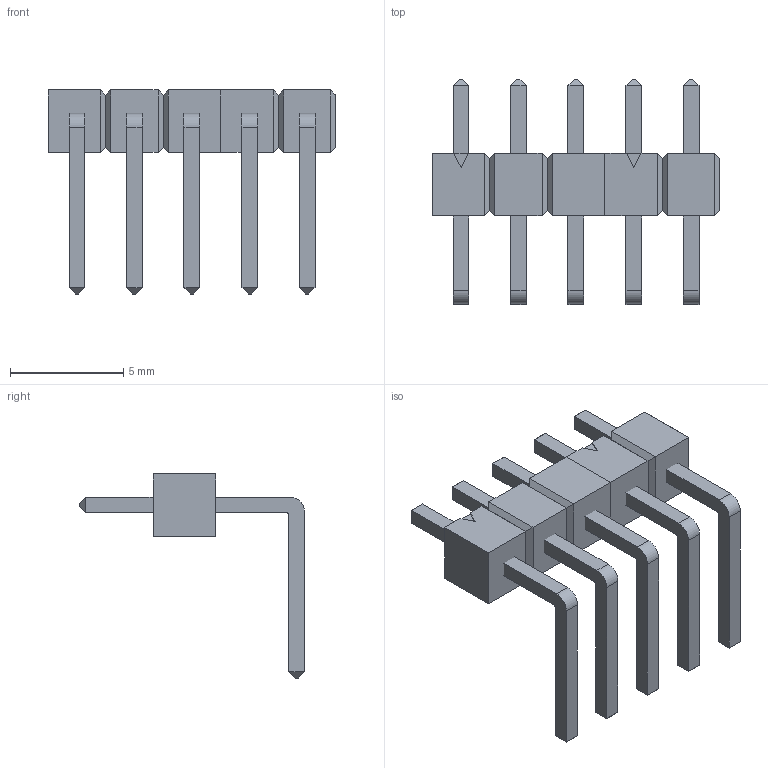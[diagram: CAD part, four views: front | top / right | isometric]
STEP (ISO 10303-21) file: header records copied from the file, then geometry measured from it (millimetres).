
FILE_DESCRIPTION (( 'STEP AP203' ), '1' );
FILE_NAME ('PLL.STEP', '2025-11-22T20:01:41', ( '' ), ( '' ), 'SwSTEP 2.0', 'SolidWorks 2022', '' );
FILE_SCHEMA (( 'CONFIG_CONTROL_DESIGN' ));
Length unit declared in the file: millimetre
Products named in the file (1): PLL
Bounding box: 12.7 x 9.91 x 9 mm (x, y, z)
Volume: 134.1 mm3; surface area: 407.5 mm2
Topology: 7 solids, 7 shells, 152 faces, 330 edges, 192 vertices
Faces by surface type: plane 142, cylinder 10
Entity records: 4027 total; most frequent: CARTESIAN_POINT 675, ORIENTED_EDGE 660, DIRECTION 656, EDGE_CURVE 330, VECTOR 310, LINE 310, VERTEX_POINT 192, AXIS2_PLACEMENT_3D 173
